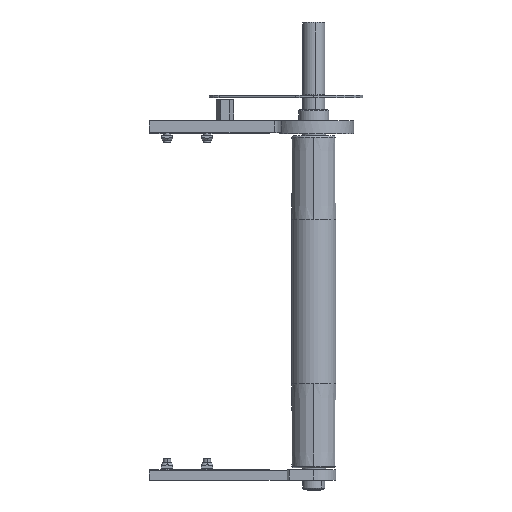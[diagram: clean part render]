
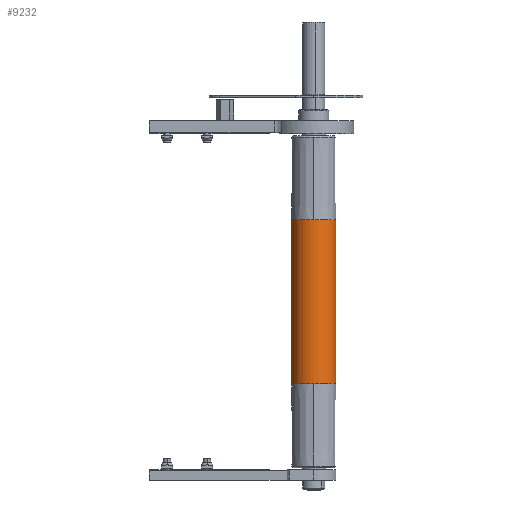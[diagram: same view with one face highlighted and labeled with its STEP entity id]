
A CAD part, front view. The second image highlights one B-rep face of the part: STEP entity #9232.
In plain terms, the highlighted cylindrical face has radius 25 mm (diameter 50 mm), a partial arc.
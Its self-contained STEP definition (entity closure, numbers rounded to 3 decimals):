
#198 = FACE_OUTER_BOUND ( 'NONE', #3401, .T. ) ;
#222 = ORIENTED_EDGE ( 'NONE', *, *, #7684, .T. ) ;
#763 = VERTEX_POINT ( 'NONE', #12866 ) ;
#1353 = CARTESIAN_POINT ( 'NONE',  ( 92.5, 0., 0. ) ) ;
#1546 = CIRCLE ( 'NONE', #3045, 25. ) ;
#1983 = ORIENTED_EDGE ( 'NONE', *, *, #11456, .T. ) ;
#2577 = DIRECTION ( 'NONE',  ( 0., -1., 0. ) ) ;
#2684 = CYLINDRICAL_SURFACE ( 'NONE', #12522, 25. ) ;
#2693 = DIRECTION ( 'NONE',  ( -1., 0., 0. ) ) ;
#2829 = DIRECTION ( 'NONE',  ( -1., 0., 0. ) ) ;
#2876 = VECTOR ( 'NONE', #6284, 1000. ) ;
#2906 = CARTESIAN_POINT ( 'NONE',  ( -92.5, 0., 0. ) ) ;
#3045 = AXIS2_PLACEMENT_3D ( 'NONE', #4242, #12964, #5486 ) ;
#3255 = ORIENTED_EDGE ( 'NONE', *, *, #9360, .F. ) ;
#3401 = EDGE_LOOP ( 'NONE', ( #222, #1983, #12960, #3255, #4938, #9826 ) ) ;
#4167 = DIRECTION ( 'NONE',  ( 0., -1., 0. ) ) ;
#4242 = CARTESIAN_POINT ( 'NONE',  ( -92.5, 0., 0. ) ) ;
#4451 = EDGE_CURVE ( 'NONE', #7277, #13932, #14590, .T. ) ;
#4929 = AXIS2_PLACEMENT_3D ( 'NONE', #1353, #10073, #2577 ) ;
#4938 = ORIENTED_EDGE ( 'NONE', *, *, #14670, .F. ) ;
#5103 = CIRCLE ( 'NONE', #5812, 25. ) ;
#5276 = CARTESIAN_POINT ( 'NONE',  ( 185., 0., 25. ) ) ;
#5300 = CARTESIAN_POINT ( 'NONE',  ( 92.5, 0., 0. ) ) ;
#5486 = DIRECTION ( 'NONE',  ( 0., -1., 0. ) ) ;
#5812 = AXIS2_PLACEMENT_3D ( 'NONE', #2906, #11639, #4167 ) ;
#6284 = DIRECTION ( 'NONE',  ( -1., 0., 0. ) ) ;
#6579 = DIRECTION ( 'NONE',  ( 0., -1., 0. ) ) ;
#6675 = AXIS2_PLACEMENT_3D ( 'NONE', #5300, #14063, #6579 ) ;
#6966 = EDGE_CURVE ( 'NONE', #763, #13871, #9535, .T. ) ;
#7277 = VERTEX_POINT ( 'NONE', #9347 ) ;
#7684 = EDGE_CURVE ( 'NONE', #7277, #7844, #14860, .T. ) ;
#7731 = CARTESIAN_POINT ( 'NONE',  ( -92.5, 25., 0. ) ) ;
#7844 = VERTEX_POINT ( 'NONE', #13113 ) ;
#9232 = ADVANCED_FACE ( 'NONE', ( #198 ), #2684, .T. ) ;
#9347 = CARTESIAN_POINT ( 'NONE',  ( 92.5, 0., 25. ) ) ;
#9360 = EDGE_CURVE ( 'NONE', #11544, #13871, #1546, .T. ) ;
#9535 = LINE ( 'NONE', #12472, #2876 ) ;
#9826 = ORIENTED_EDGE ( 'NONE', *, *, #4451, .F. ) ;
#10073 = DIRECTION ( 'NONE',  ( -1., 0., 0. ) ) ;
#11456 = EDGE_CURVE ( 'NONE', #7844, #763, #12205, .T. ) ;
#11544 = VERTEX_POINT ( 'NONE', #7731 ) ;
#11628 = CARTESIAN_POINT ( 'NONE',  ( -92.5, 0., -25. ) ) ;
#11639 = DIRECTION ( 'NONE',  ( -1., 0., 0. ) ) ;
#12205 = CIRCLE ( 'NONE', #4929, 25. ) ;
#12472 = CARTESIAN_POINT ( 'NONE',  ( 185., 0., -25. ) ) ;
#12522 = AXIS2_PLACEMENT_3D ( 'NONE', #13974, #2693, #12673 ) ;
#12673 = DIRECTION ( 'NONE',  ( 0., 0., 1. ) ) ;
#12866 = CARTESIAN_POINT ( 'NONE',  ( 92.5, 0., -25. ) ) ;
#12960 = ORIENTED_EDGE ( 'NONE', *, *, #6966, .T. ) ;
#12964 = DIRECTION ( 'NONE',  ( -1., 0., 0. ) ) ;
#13008 = CARTESIAN_POINT ( 'NONE',  ( -92.5, 0., 25. ) ) ;
#13113 = CARTESIAN_POINT ( 'NONE',  ( 92.5, 25., 0. ) ) ;
#13871 = VERTEX_POINT ( 'NONE', #11628 ) ;
#13932 = VERTEX_POINT ( 'NONE', #13008 ) ;
#13974 = CARTESIAN_POINT ( 'NONE',  ( 185., 0., 0. ) ) ;
#14063 = DIRECTION ( 'NONE',  ( -1., 0., 0. ) ) ;
#14191 = VECTOR ( 'NONE', #2829, 1000. ) ;
#14590 = LINE ( 'NONE', #5276, #14191 ) ;
#14670 = EDGE_CURVE ( 'NONE', #13932, #11544, #5103, .T. ) ;
#14860 = CIRCLE ( 'NONE', #6675, 25. ) ;
